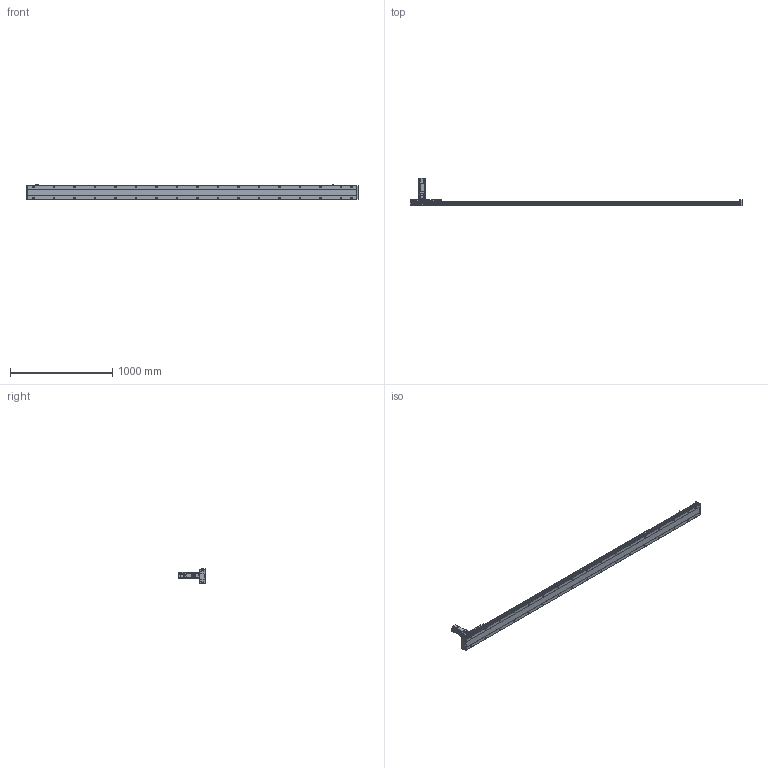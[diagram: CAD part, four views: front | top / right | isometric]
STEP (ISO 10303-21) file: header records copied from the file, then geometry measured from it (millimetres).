
FILE_DESCRIPTION(/* description */ ('STEP AP203'),/* implementation_level */ '2;1');
FILE_NAME(/* name */ 'SHS14A-L10-S2900-BC-T40-C1-N(0)',/* time_stamp */ '2023-03-27T08:52:39+02:00',/* author */ ('License CC BY-ND 4.0'),/* organization */ ('CADENAS'),/* preprocessor_version */ 'ST-DEVELOPER v19.3',/* originating_system */ 'PARTsolutions',/* authorisation */ ' ');
FILE_SCHEMA (('CONFIG_CONTROL_DESIGN'));
Length unit declared in the file: millimetre
Products named in the file (7): SHS14A-L10-S2900-BC-T40-C1-N(0); PSC140-sensor; T40-p1; SHS14AT_body3; SHS14A-2900_slider; SHS14A_body2; SHS14A-S2900-BC-T40-C1(0)_body
Assembly tree (13 placements, depth 2):
  SHS14A-L10-S2900-BC-T40-C1-N(0)
    PSC140-sensor  x3
    T40-p1
    SHS14AT_body3
    SHS14A-2900_slider
    SHS14A_body2  x6
    SHS14A-S2900-BC-T40-C1(0)_body
Bounding box: 3240 x 272.7 x 150.9 mm (x, y, z)
Volume: 13249623.3 mm3; surface area: 2060070.7 mm2
Topology: 13 solids, 13 shells, 2172 faces, 5543 edges, 3624 vertices
Faces by surface type: plane 1497, cylinder 579, cone 86, torus 10
Full cylindrical faces by diameter (mm): 2.8 x3, 4.134 x24, 4.2 x7, 4.4 x24, 4.5 x24, 4.6 x3, 4.8 x24, 4.917 x42, 5 x8, 5.5 x11, 5.94 x6, 6 x2, 6.6 x34, 8 x24, 8.49 x4, 8.5 x4, 9 x4, 10.5 x34, 13.964 x1, 14 x1, 14.182 x1, 16 x1, 18.974 x1, 19.274 x1, 19.774 x1, 19.8 x1, 34.442 x1, 42 x1, 50 x5
Entity records: 35564 total; most frequent: CARTESIAN_POINT 6372, DIRECTION 6009, ORIENTED_EDGE 5502, EDGE_CURVE 2751, AXIS2_PLACEMENT_3D 2113, VERTEX_POINT 1972, EDGE_LOOP 1829, FACE_BOUND 1829
